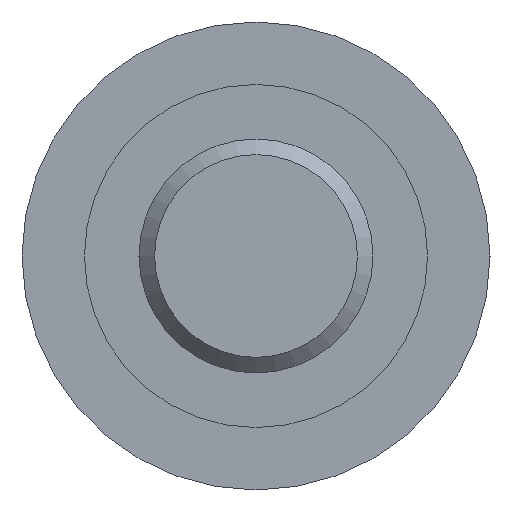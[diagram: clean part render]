
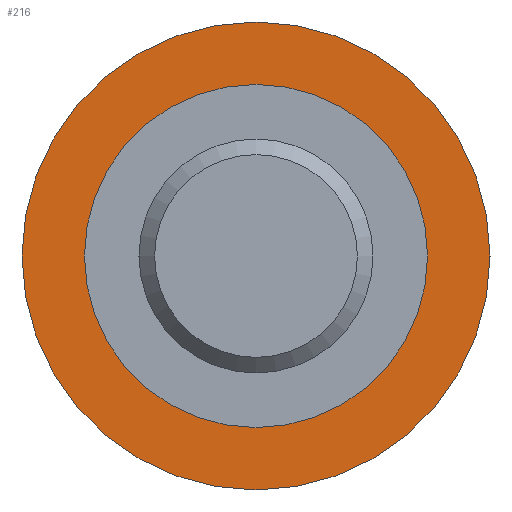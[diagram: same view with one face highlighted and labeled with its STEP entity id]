
A CAD part, left-side view. The second image highlights one B-rep face of the part: STEP entity #216.
In plain terms, the highlighted planar face has unit normal (-1, 0, 0).
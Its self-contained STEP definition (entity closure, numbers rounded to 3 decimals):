
#17=FACE_BOUND('',#55,.T.);
#23=PLANE('',#265);
#39=FACE_OUTER_BOUND('',#54,.T.);
#54=EDGE_LOOP('',(#185,#186));
#55=EDGE_LOOP('',(#187,#188));
#88=CIRCLE('',#263,11.);
#89=CIRCLE('',#264,11.);
#90=CIRCLE('',#266,15.);
#91=CIRCLE('',#267,15.);
#110=VERTEX_POINT('',#396);
#111=VERTEX_POINT('',#397);
#112=VERTEX_POINT('',#402);
#113=VERTEX_POINT('',#403);
#136=EDGE_CURVE('',#110,#111,#88,.T.);
#137=EDGE_CURVE('',#111,#110,#89,.T.);
#139=EDGE_CURVE('',#112,#113,#90,.T.);
#140=EDGE_CURVE('',#113,#112,#91,.T.);
#185=ORIENTED_EDGE('',*,*,#139,.F.);
#186=ORIENTED_EDGE('',*,*,#140,.F.);
#187=ORIENTED_EDGE('',*,*,#136,.T.);
#188=ORIENTED_EDGE('',*,*,#137,.T.);
#216=ADVANCED_FACE('',(#39,#17),#23,.T.);
#263=AXIS2_PLACEMENT_3D('',#398,#327,#328);
#264=AXIS2_PLACEMENT_3D('',#399,#329,#330);
#265=AXIS2_PLACEMENT_3D('',#401,#332,#333);
#266=AXIS2_PLACEMENT_3D('',#404,#334,#335);
#267=AXIS2_PLACEMENT_3D('',#405,#336,#337);
#327=DIRECTION('center_axis',(1.,0.,0.));
#328=DIRECTION('ref_axis',(0.,0.,-1.));
#329=DIRECTION('center_axis',(1.,0.,0.));
#330=DIRECTION('ref_axis',(0.,0.,-1.));
#332=DIRECTION('center_axis',(-1.,0.,0.));
#333=DIRECTION('ref_axis',(0.,0.,1.));
#334=DIRECTION('center_axis',(1.,0.,0.));
#335=DIRECTION('ref_axis',(0.,0.,-1.));
#336=DIRECTION('center_axis',(1.,0.,0.));
#337=DIRECTION('ref_axis',(0.,0.,-1.));
#396=CARTESIAN_POINT('',(-150.,11.,0.));
#397=CARTESIAN_POINT('',(-150.,-11.,0.));
#398=CARTESIAN_POINT('Origin',(-150.,0.,0.));
#399=CARTESIAN_POINT('Origin',(-150.,0.,0.));
#401=CARTESIAN_POINT('Origin',(-150.,15.,0.));
#402=CARTESIAN_POINT('',(-150.,15.,0.));
#403=CARTESIAN_POINT('',(-150.,-15.,0.));
#404=CARTESIAN_POINT('Origin',(-150.,0.,0.));
#405=CARTESIAN_POINT('Origin',(-150.,0.,0.));
